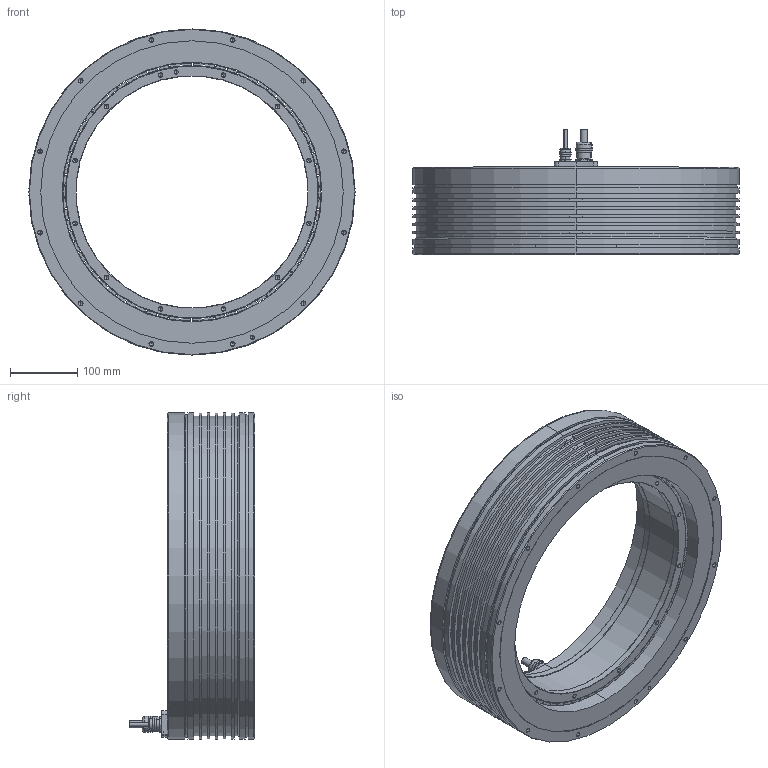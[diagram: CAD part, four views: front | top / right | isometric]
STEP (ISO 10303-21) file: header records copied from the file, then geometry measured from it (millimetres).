
FILE_DESCRIPTION (( 'STEP AP214' ), '1' );
FILE_NAME ('TORQUE KIT QMT LA 485-130-I-AX.STEP', '2025-09-29T13:57:55', ( '' ), ( '' ), 'SwSTEP 2.0', 'SolidWorks 2023', '' );
FILE_SCHEMA (( 'AUTOMOTIVE_DESIGN' ));
Length unit declared in the file: millimetre
Products named in the file (21): Resin; Cable Gland; Stator; TORQUE KIT QMT LA 485-130-I-AX; Cable Clamp; Screw; Magnet; Cable Connection; Rotor Ring; Housing; Cable; Cooling Ring; Rotor; Housing-BO; Rotor Glued
Assembly tree (90 placements, depth 6):
  TORQUE KIT QMT LA 485-130-I-AX
    Stator
      Stator
        Housing
          Housing-BO
            Cooling Ring
        Cable Connection
          Cable Connection
          Cable
          Cable
        Resin
      Cable Clamp
        Cable Clamp
        Cable Gland
        Cable Gland
      Screw  x3
    Rotor
      Rotor Glued
        Rotor Ring
        Magnet  x35
        Magnet  x35
Bounding box: 485 x 187.1 x 485 mm (x, y, z)
Volume: 9792835.5 mm3; surface area: 1393582.3 mm2
Topology: 82 solids, 82 shells, 3015 faces, 6873 edges, 3739 vertices
Faces by surface type: cylinder 1289, sphere 700, plane 500, torus 310, cone 216
Entity records: 32381 total; most frequent: DIRECTION 4707, CARTESIAN_POINT 4706, ORIENTED_EDGE 3870, AXIS2_PLACEMENT_3D 1946, EDGE_CURVE 1935, VERTEX_POINT 1217, EDGE_LOOP 1000, CIRCLE 992
